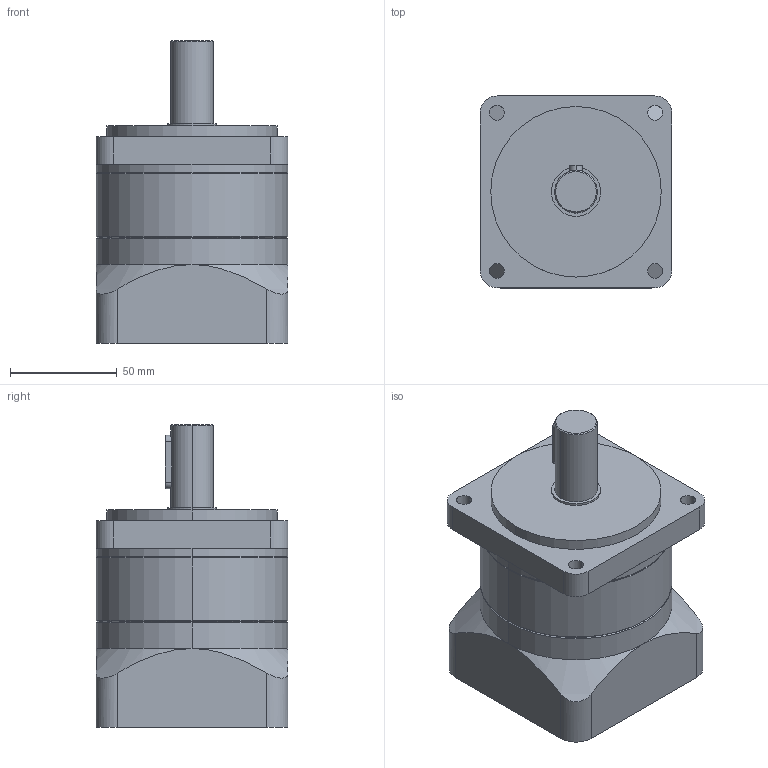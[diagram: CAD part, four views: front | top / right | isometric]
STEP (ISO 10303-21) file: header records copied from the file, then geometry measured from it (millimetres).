
FILE_DESCRIPTION (( 'STEP AP203' ), '1' );
FILE_NAME ('S90-L1(B70_90).STEP', '2011-11-14T03:57:53', ( 'CPC-PC' ), ( '' ), 'SwSTEP 2.0', 'SolidWorks 2009', '' );
FILE_SCHEMA (( 'CONFIG_CONTROL_DESIGN' ));
Length unit declared in the file: millimetre
Products named in the file (5): T; S90-L1(B70_90); B; R; F-1
Assembly tree (4 placements, depth 2):
  S90-L1(B70_90)
    B
    R
    F-1
    T
Bounding box: 90 x 90 x 142 mm (x, y, z)
Volume: 692728.5 mm3; surface area: 84002.5 mm2
Topology: 4 solids, 4 shells, 86 faces, 187 edges, 118 vertices
Faces by surface type: cylinder 43, plane 31, cone 12
Entity records: 3154 total; most frequent: CARTESIAN_POINT 681, DIRECTION 449, ORIENTED_EDGE 374, EDGE_CURVE 187, AXIS2_PLACEMENT_3D 184, VERTEX_POINT 118, EDGE_LOOP 103, CIRCLE 91
